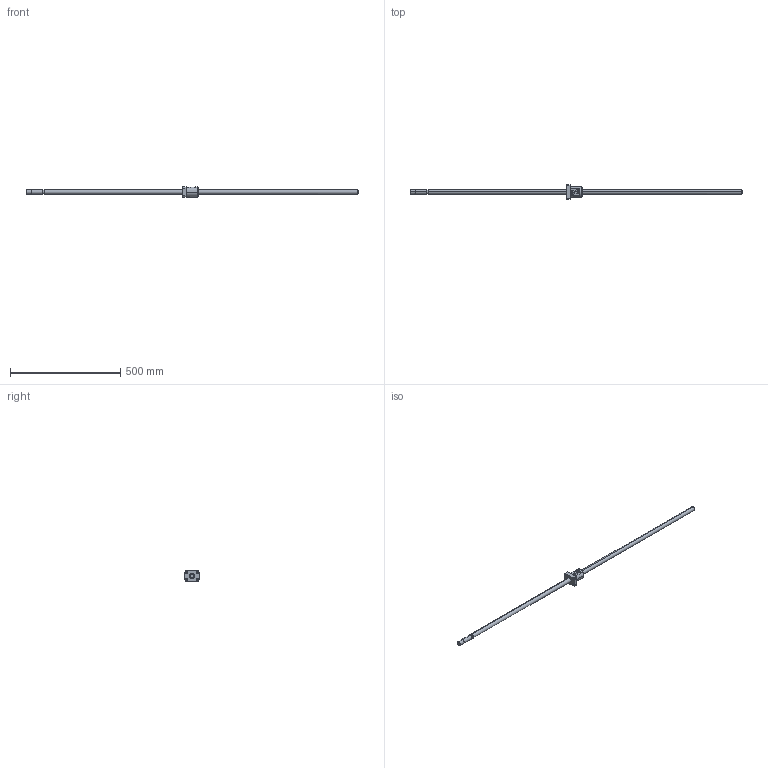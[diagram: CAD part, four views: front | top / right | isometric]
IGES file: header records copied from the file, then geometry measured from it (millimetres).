
Global section: file name: No Iges File Name specified; native system: AutoDesk Inventor R10; preprocessor: AutoDesk Inventor Iges Exporter R10; author: No Author specified; organization: No Organization specified; date: 20101224.141600; units: millimetre
Bounding box: 1505 x 66 x 46 mm (x, y, z)
Surface area: 118578.3 mm2 (no closed solid volume)
Topology: 0 solids, 0 shells, 132 faces, 980 edges, 980 vertices
Faces by surface type: bspline 132
